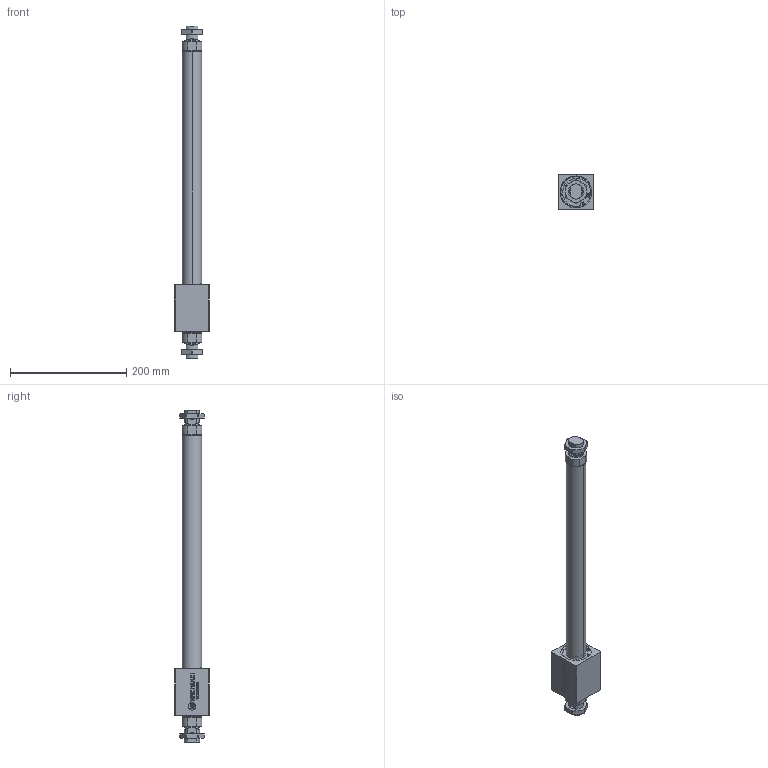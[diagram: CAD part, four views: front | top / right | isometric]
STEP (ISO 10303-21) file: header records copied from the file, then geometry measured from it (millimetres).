
FILE_DESCRIPTION (( 'STEP AP214' ), '1' );
FILE_NAME ('WMS-032-0400 (3D).STEP', '2019-09-13T13:17:24', ( '' ), ( '' ), 'SwSTEP 2.0', 'SolidWorks 2016', '' );
FILE_SCHEMA (( 'AUTOMOTIVE_DESIGN' ));
Length unit declared in the file: millimetre
Products named in the file (5): WMS-032-0400 (3D); Group1^WMS-032-0400 (3D); Group3^WMS-032-0400 (3D); Group2^WMS-032-0400 (3D); Group4^WMS-032-0400 (3D)
Assembly tree (4 placements, depth 2):
  WMS-032-0400 (3D)
    Group1^WMS-032-0400 (3D)
    Group2^WMS-032-0400 (3D)
    Group3^WMS-032-0400 (3D)
    Group4^WMS-032-0400 (3D)
Bounding box: 60 x 60 x 572 mm (x, y, z)
Volume: 380155.4 mm3; surface area: 168412.1 mm2
Topology: 9 solids, 9 shells, 473 faces, 1231 edges, 818 vertices
Faces by surface type: plane 227, cylinder 122, bspline 112, cone 12
Entity records: 21442 total; most frequent: CARTESIAN_POINT 8781, ORIENTED_EDGE 2462, DIRECTION 1887, EDGE_CURVE 1231, VERTEX_POINT 818, VECTOR 727, LINE 727, AXIS2_PLACEMENT_3D 580
